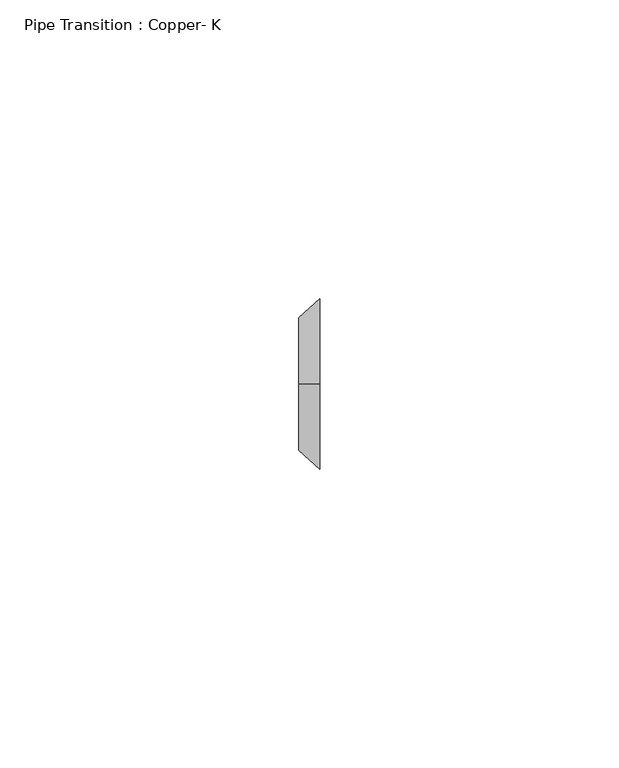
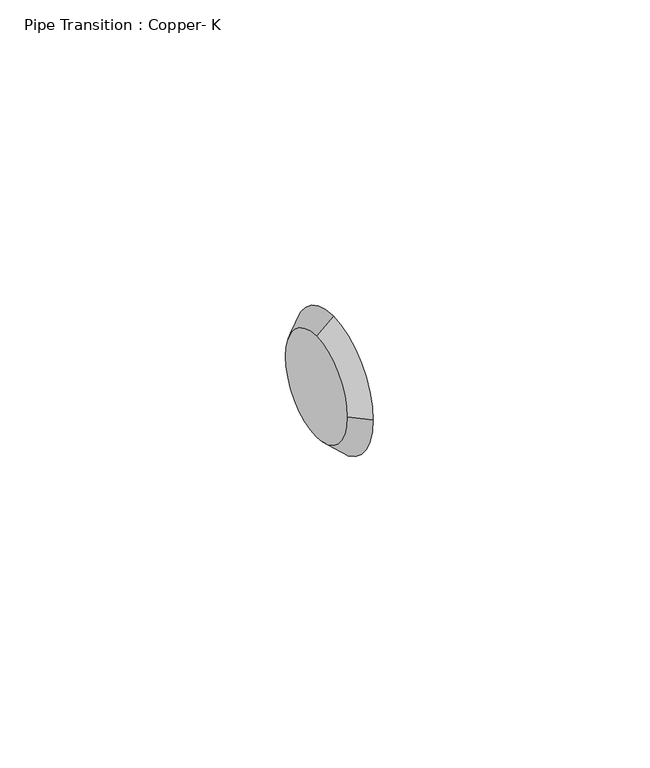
"""IFC4 building model written with IfcOpenShell, lengths in millimetres: pipe fitting geometry, Pipe Transition : Copper- K."""

from ifc_helpers import new_model, si_unit, frame, origin, place, context, project, spatial, polyline, circle_curve, source, transform, mapped, element, save
from ifc_brep_helpers import plane_surface, revolved_surface, advanced_brep


def pipe_transition_copper_k_7e8f21d9(model_context):
    return source(origin(), model_context, "Body", "AdvancedBrep", [
        advanced_brep(
        [(3.571875, 0.0, 14.2875), (3.571875, -14.2875, 0.0), (3.571875, 0.0, -14.2875), (3.571875, 14.2875, 0.0), (0.0, 0.0, 11.1125), (0.0, 11.1125, 0.0), (0.0, 0.0, -11.1125), (0.0, -11.1125, 0.0)],
        [
            (0, 1, circle_curve(frame((3.571875, 0.0, 0.0), z_axis=(1.0, 0.0, 0.0), x_axis=(0.0, -1.0, 0.0)), 14.2875)),
            (1, 2, circle_curve(frame((3.571875, 0.0, 0.0), z_axis=(1.0, 0.0, 0.0), x_axis=(0.0, 0.0, -1.0)), 14.2875)),
            (2, 3, circle_curve(frame((3.571875, 0.0, 0.0), z_axis=(1.0, 0.0, 0.0), x_axis=(0.0, 1.0, 0.0)), 14.2875)),
            (3, 0, circle_curve(frame((3.571875, 0.0, 0.0), z_axis=(1.0, 0.0, 0.0), x_axis=(0.0, 0.0, 1.0)), 14.2875)),
            (4, 5, circle_curve(frame((0.0, 0.0, 0.0), z_axis=(-1.0, 0.0, 0.0), x_axis=(0.0, 0.0, 1.0)), 11.1125)),
            (5, 6, circle_curve(frame((0.0, 0.0, 0.0), z_axis=(-1.0, 0.0, 0.0), x_axis=(0.0, 1.0, 0.0)), 11.1125)),
            (6, 7, circle_curve(frame((0.0, 0.0, 0.0), z_axis=(-1.0, 0.0, 0.0), x_axis=(0.0, 0.0, -1.0)), 11.1125)),
            (7, 4, circle_curve(frame((0.0, 0.0, 0.0), z_axis=(-1.0, 0.0, 0.0), x_axis=(0.0, -1.0, 0.0)), 11.1125)),
            (4, 0),
            (3, 5),
            (2, 6),
            (1, 7),
        ],
        [
            plane_surface(frame((3.571875, 0.0, 0.0), z_axis=(1.0, 0.0, 0.0), x_axis=(0.0, 1.0, 0.0))),
            plane_surface(frame((0.0, 0.0, 0.0), z_axis=(-1.0, 0.0, 0.0), x_axis=(0.0, 1.0, 0.0))),
            revolved_surface(polyline([(0.0, 0.0, 11.1125), (3.5718750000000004, 0.0, 14.2875)]), (-12.5015625, 0.0, 0.0), (1.0, 0.0, 0.0)),
            revolved_surface(polyline([(0.0, 11.1125, 0.0), (3.5718750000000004, 14.2875, 0.0)]), (-12.5015625, 0.0, 0.0), (1.0, 0.0, 0.0)),
            revolved_surface(polyline([(0.0, 0.0, -11.1125), (3.5718750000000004, 0.0, -14.2875)]), (-12.5015625, 0.0, 0.0), (1.0, 0.0, 0.0)),
            revolved_surface(polyline([(0.0, -11.1125, 0.0), (3.5718750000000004, -14.2875, 0.0)]), (-12.5015625, 0.0, 0.0), (1.0, 0.0, 0.0)),
        ],
        [
            (0, [[1, 2, 3, 4]]),
            (1, [[5, 6, 7, 8]]),
            (2, [[9, -4, 10, -5]]),
            (3, [[-10, -3, 11, -6]]),
            (4, [[-11, -2, 12, -7]]),
            (5, [[-12, -1, -9, -8]]),
        ],
    ),
        advanced_brep(
        [(3.571875, 0.0, 14.2875), (3.571875, -14.2875, 0.0), (3.571875, 0.0, -14.2875), (3.571875, 14.2875, 0.0), (0.0, 0.0, 11.1125), (0.0, 11.1125, 0.0), (0.0, 0.0, -11.1125), (0.0, -11.1125, 0.0)],
        [
            (0, 1, circle_curve(frame((3.571875, 0.0, 0.0), z_axis=(1.0, 0.0, 0.0), x_axis=(0.0, -1.0, 0.0)), 14.2875)),
            (1, 2, circle_curve(frame((3.571875, 0.0, 0.0), z_axis=(1.0, 0.0, -3.646393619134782e-12), x_axis=(-3.646355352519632e-12, 0.0, -1.0)), 14.2875)),
            (2, 3, circle_curve(frame((3.571875, 0.0, 0.0), z_axis=(1.0, 0.0, -2.2436177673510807e-12), x_axis=(0.0, 1.0, 0.0)), 14.2875)),
            (3, 0, circle_curve(frame((3.571875, 0.0, 0.0), z_axis=(1.0, 0.0, -2.3383567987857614e-12), x_axis=(2.3383799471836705e-12, 0.0, 1.0)), 14.2875)),
            (4, 5, circle_curve(frame((0.0, 0.0, 0.0), z_axis=(-1.0, 0.0, 2.3383567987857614e-12), x_axis=(2.3383799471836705e-12, 0.0, 1.0)), 11.1125)),
            (5, 6, circle_curve(frame((0.0, 0.0, 0.0), z_axis=(-1.0, 0.0, 2.2436177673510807e-12), x_axis=(0.0, 1.0, 0.0)), 11.1125)),
            (6, 7, circle_curve(frame((0.0, 0.0, 0.0), z_axis=(-1.0, 0.0, 3.646393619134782e-12), x_axis=(-3.646355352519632e-12, 0.0, -1.0)), 11.1125)),
            (7, 4, circle_curve(frame((0.0, 0.0, 0.0), z_axis=(-1.0, 0.0, 0.0), x_axis=(0.0, -1.0, 0.0)), 11.1125)),
            (4, 0),
            (3, 5),
            (2, 6),
            (1, 7),
        ],
        [
            plane_surface(frame((3.571875, 0.0, 0.0), z_axis=(1.0, 0.0, 0.0), x_axis=(0.0, 1.0, 0.0))),
            plane_surface(frame((0.0, 0.0, 0.0), z_axis=(-1.0, 0.0, 0.0), x_axis=(0.0, 1.0, 0.0))),
            revolved_surface(polyline([(0.0, 0.0, 11.1125), (3.57187500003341, 0.0, 14.287500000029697)]), (-12.5015625, 0.0, 0.0), (1.0, 0.0, -2.3383567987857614e-12)),
            revolved_surface(polyline([(0.0, 11.1125, 0.0), (3.5718750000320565, 14.287500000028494, 0.0)]), (-12.5015625, 0.0, 0.0), (1.0, 0.0, -2.2436177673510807e-12)),
            revolved_surface(polyline([(-4.0520475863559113e-11, 0.0, -11.112499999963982), (3.5718750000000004, 0.0, -14.2875)]), (-12.5015625, 0.0, 0.0), (1.0, 0.0, -3.646393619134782e-12)),
            revolved_surface(polyline([(0.0, -11.1125, 0.0), (3.5718750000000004, -14.2875, 0.0)]), (-12.5015625, 0.0, 0.0), (1.0, 0.0, 0.0)),
        ],
        [
            (0, [[1, 2, 3, 4]]),
            (1, [[5, 6, 7, 8]]),
            (2, [[9, -4, 10, -5]]),
            (3, [[-10, -3, 11, -6]]),
            (4, [[-11, -2, 12, -7]]),
            (5, [[-12, -1, -9, -8]]),
        ],
    ),
    ])


if __name__ == "__main__":
    model = new_model("IFC4")
    model_context = context("Model", 3, world=origin())
    ifc_project = project(units=[si_unit("LENGTHUNIT", "METRE", prefix="MILLI")], contexts=[model_context])
    site = spatial("IfcSite", under=ifc_project)
    building = spatial("IfcBuilding", under=site)
    placement = place(None, origin())
    pipe_transition_copper_k_shape = pipe_transition_copper_k_7e8f21d9(model_context)
    element("IfcPipeFitting", 1, ObjectType="Pipe Transition : Copper- K", at=placement, inside=building, context=model_context, shape_type="MappedRepresentation", body=[
        mapped(pipe_transition_copper_k_shape, transform((0.0, 0.0, 0.0), x_axis=(1.0, 0.0, 0.0), y_axis=(0.0, 1.0, 0.0), z_axis=(0.0, 0.0, 1.0))),
    ])
    save(model, "model.ifc")
